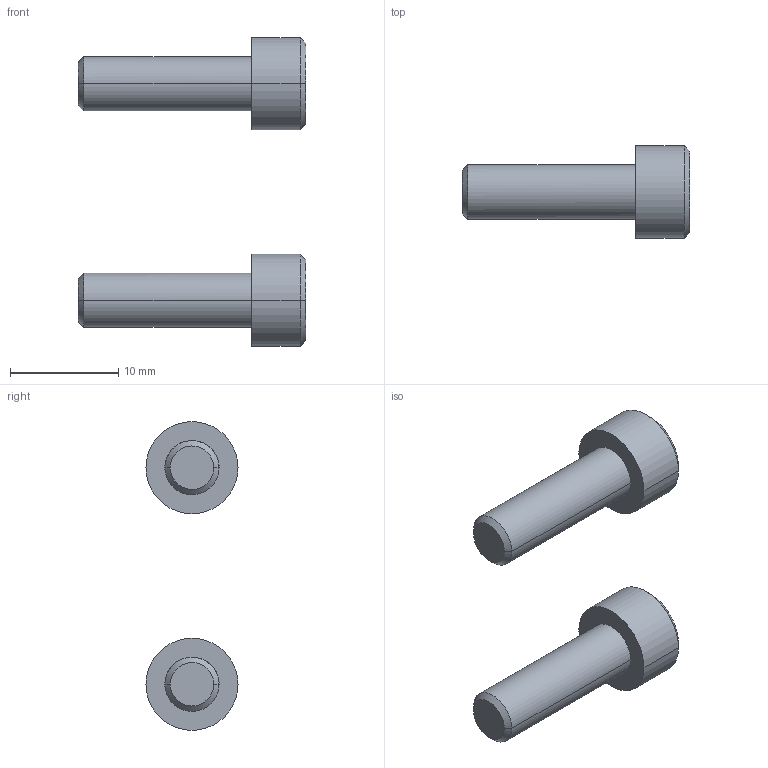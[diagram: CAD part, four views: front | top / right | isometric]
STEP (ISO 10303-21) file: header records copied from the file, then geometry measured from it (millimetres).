
FILE_DESCRIPTION(/* description */ (''),/* implementation_level */ '2;1');
FILE_NAME(/* name */ '6.y-drive#6.4#CB5-16',/* time_stamp */ '2014-12-01T20:14:26+01:00',/* author */ (''),/* organization */ (''),/* preprocessor_version */ 'ST-DEVELOPER v14',/* originating_system */ '',/* authorisation */ '');
FILE_SCHEMA (('AUTOMOTIVE_DESIGN'));
Length unit declared in the file: millimetre
Products named in the file (1): Document
Bounding box: 21 x 8.5 x 28.49 mm (x, y, z)
Volume: 1115.7 mm3; surface area: 1041.7 mm2
Topology: 2 solids, 2 shells, 50 faces, 112 edges, 66 vertices
Faces by surface type: plane 30, bspline 20
Entity records: 2731 total; most frequent: CARTESIAN_POINT 1257, B_SPLINE_CURVE_WITH_KNOTS 252, ORIENTED_EDGE 216, PCURVE 216, DEFINITIONAL_REPRESENTATION 216, SURFACE_CURVE 108, EDGE_CURVE 108, VERTEX_POINT 66
